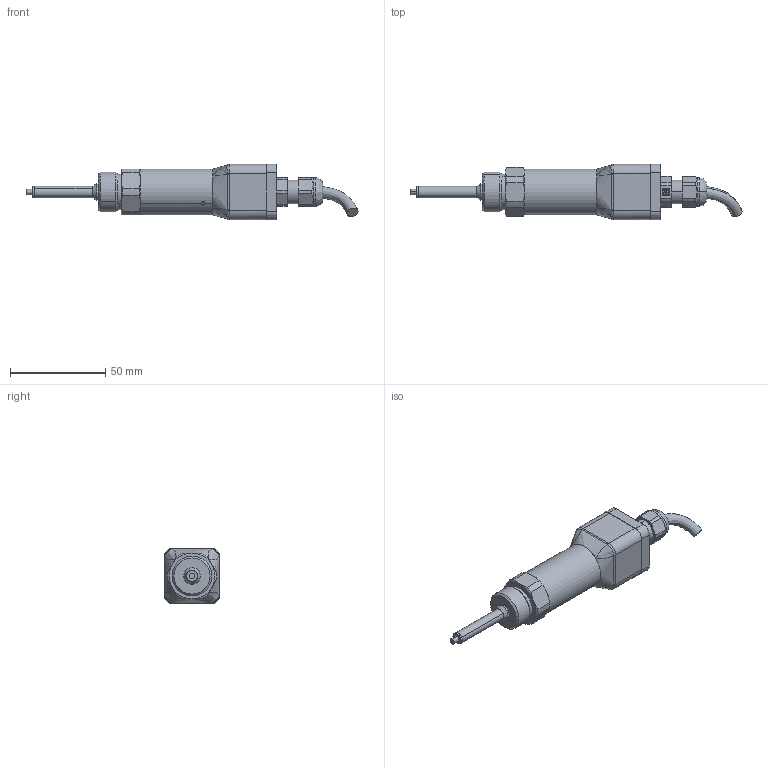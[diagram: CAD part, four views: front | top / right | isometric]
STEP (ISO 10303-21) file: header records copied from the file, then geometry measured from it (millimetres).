
FILE_DESCRIPTION (( 'STEP AP214' ), '1' );
FILE_NAME ('AST11 Kablolu.STEP', '2025-12-11T09:27:14', ( '' ), ( '' ), 'SwSTEP 2.0', 'SolidWorks 2014', '' );
FILE_SCHEMA (( 'AUTOMOTIVE_DESIGN' ));
Length unit declared in the file: millimetre
Products named in the file (1): AST11 Kablolu
Bounding box: 174.07 x 29 x 29 mm (x, y, z)
Surface area: 13299.9 mm2 (no closed solid volume)
Topology: 0 solids, 10 shells, 187 faces, 519 edges, 340 vertices
Faces by surface type: plane 72, cylinder 52, bspline 28, cone 26, torus 9
Entity records: 9866 total; most frequent: CARTESIAN_POINT 3233, DIRECTION 933, ORIENTED_EDGE 918, EDGE_CURVE 515, AXIS2_PLACEMENT_3D 372, VERTEX_POINT 340, CIRCLE 212, EDGE_LOOP 205
